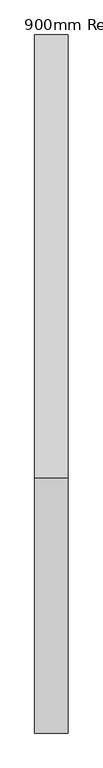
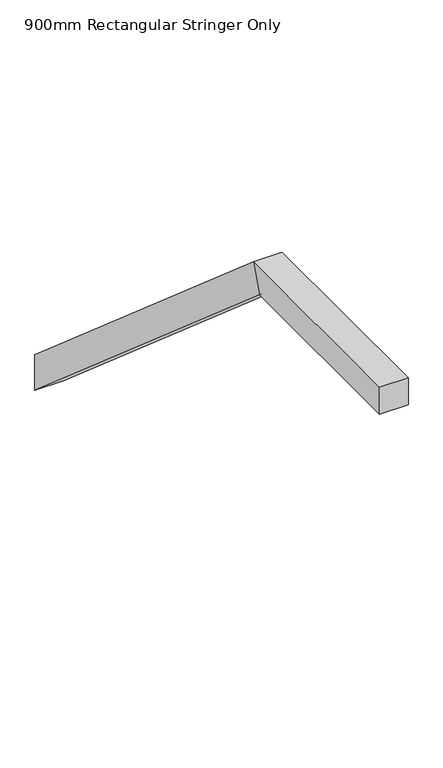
"""IFC4 building model written with IfcOpenShell, lengths in millimetres: railing geometry, 900mm Rectangular Stringer Only."""

from ifc_helpers import new_model, si_unit, origin, place, context, project, spatial, faceted_brep, source, transform, mapped, element, save


def railing_900mm_rectangular_stringer_only_800a5a53(model_context):
    return source(origin(), model_context, "Body", "Brep", [
        faceted_brep([(-5836.05, 3511.55, 1090.5), (-5836.05, 3511.55, 1024.3771875), (-5886.05, 3511.55, 1024.3771875), (-5886.05, 3511.55, 1090.5), (-5836.05, 2851.15, 1662.0), (-5836.05, 2832.5191945, 1612.0), (-5886.05, 2832.5191945, 1612.0), (-5886.05, 2851.15, 1662.0), (-5836.05, 2470.15, 1662.0), (-5886.05, 2470.15, 1662.0), (-5886.05, 2470.15, 1612.0), (-5836.05, 2470.15, 1612.0)], [[[0, 1, 2, 3]], [[1, 0, 4, 5]], [[2, 1, 5, 6]], [[3, 2, 6, 7]], [[0, 3, 7, 4]], [[8, 9, 10, 11]], [[5, 4, 8, 11]], [[6, 5, 11, 10]], [[7, 6, 10, 9]], [[4, 7, 9, 8]]]),
    ])


if __name__ == "__main__":
    model = new_model("IFC4")
    model_context = context("Model", 3, world=origin())
    ifc_project = project(units=[si_unit("LENGTHUNIT", "METRE", prefix="MILLI")], contexts=[model_context])
    site = spatial("IfcSite", under=ifc_project)
    building = spatial("IfcBuilding", under=site)
    placement = place(None, origin())
    railing_900mm_rectangular_stringer_only_shape = railing_900mm_rectangular_stringer_only_800a5a53(model_context)
    element("IfcRailing", 1, ObjectType="900mm Rectangular Stringer Only", at=placement, inside=building, context=model_context, shape_type="MappedRepresentation", body=[
        mapped(railing_900mm_rectangular_stringer_only_shape, transform((0.0, 0.0, 0.0), x_axis=(1.0, 0.0, 0.0), y_axis=(0.0, 1.0, 0.0), z_axis=(0.0, 0.0, 1.0))),
    ])
    save(model, "model.ifc")
